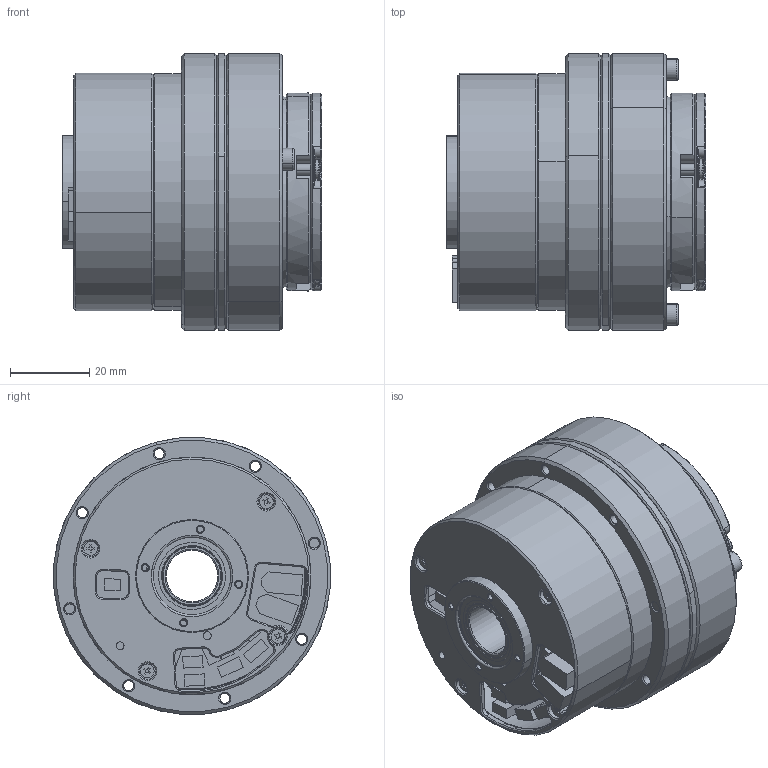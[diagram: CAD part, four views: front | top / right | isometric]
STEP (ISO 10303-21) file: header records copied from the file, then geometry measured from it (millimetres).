
FILE_DESCRIPTION (( 'STEP AP203' ), '1' );
FILE_NAME ('CRA-RI50-70-PRO-XX-2E-EC.STEP', '2024-08-26T07:03:03', ( '' ), ( '' ), 'SwSTEP 2.0', 'SolidWorks 2021', '' );
FILE_SCHEMA (( 'CONFIG_CONTROL_DESIGN' ));
Length unit declared in the file: millimetre
Products named in the file (1): CRA-RI50-70-PRO-XX-2E-EC
Bounding box: 65.6 x 69.93 x 69.93 mm (x, y, z)
Surface area: 42061.7 mm2 (no closed solid volume)
Topology: 0 solids, 65 shells, 645 faces, 2588 edges, 1983 vertices
Faces by surface type: plane 253, cylinder 201, cone 163, torus 28
Entity records: 30250 total; most frequent: CARTESIAN_POINT 8938, DIRECTION 4404, ORIENTED_EDGE 3813, EDGE_CURVE 2584, VERTEX_POINT 1983, AXIS2_PLACEMENT_3D 1520, LINE 1364, VECTOR 1364
